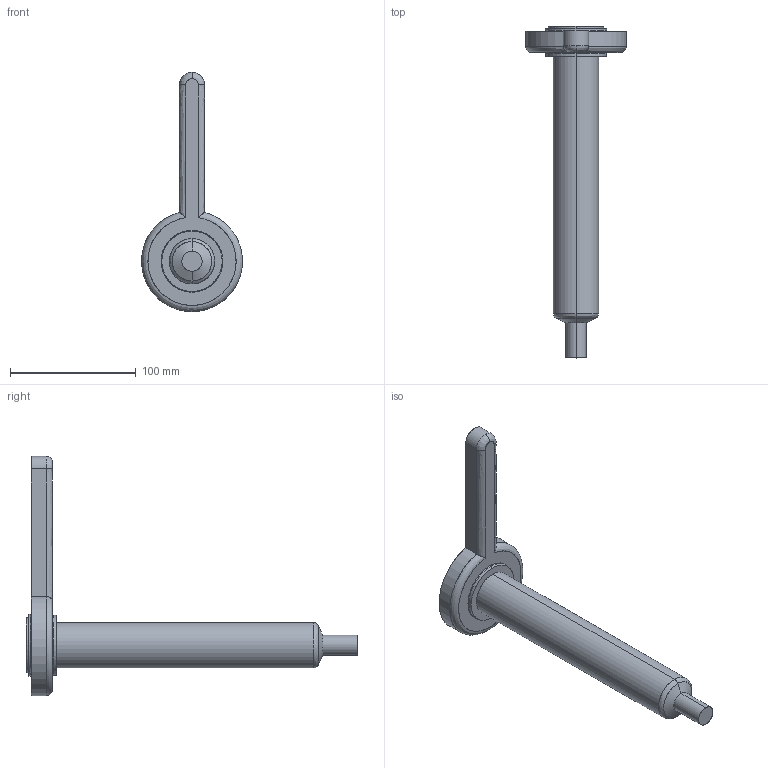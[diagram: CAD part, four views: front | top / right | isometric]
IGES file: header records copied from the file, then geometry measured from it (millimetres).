
Start section: SolidWorks IGES file using analytic representation for surfaces
Global section: file name: C:\Documents and Settings\ws-20\Desktop\TEMPORANEA\Sede UGBE5005-S-A C-214 L-236 P-25.IGS; native system: SolidWorks 2012; preprocessor: SolidWorks 2012; author: ws-20; date: 120307.090813; units: millimetre
Bounding box: 79.96 x 263.54 x 190 mm (x, y, z)
Surface area: 47054.9 mm2 (no closed solid volume)
Topology: 0 solids, 0 shells, 34 faces, 788 edges, 788 vertices
Faces by surface type: revolution 21, bspline 13
